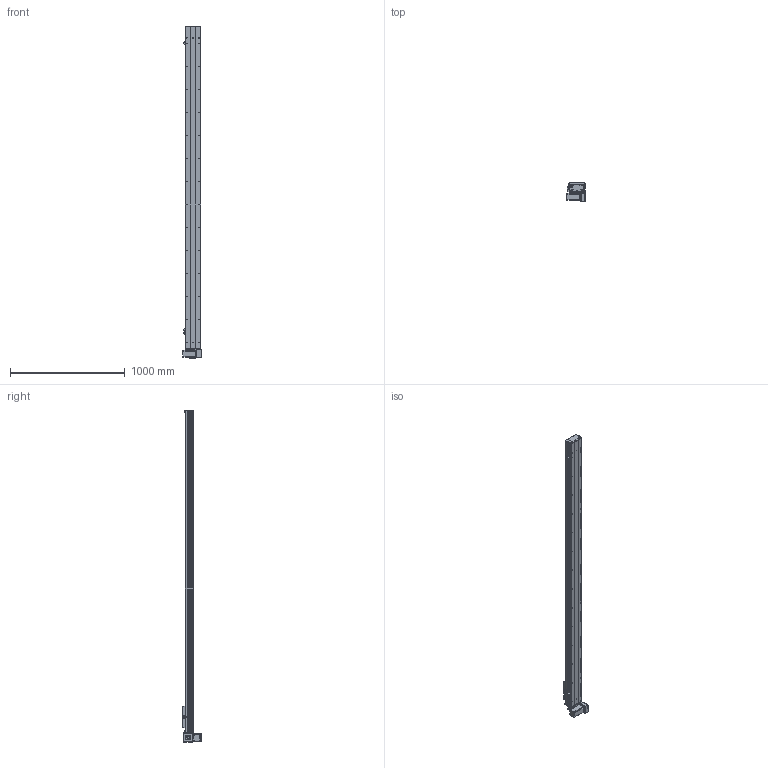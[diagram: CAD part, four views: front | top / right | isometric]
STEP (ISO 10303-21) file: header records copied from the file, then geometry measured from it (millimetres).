
FILE_DESCRIPTION (( 'STEP AP203' ), '1' );
FILE_NAME ('Y135CB-D90-S2500-BM-P400W.STEP', '2020-02-19T02:20:36', ( '微软用户' ), ( '微软中国' ), 'SwSTEP 2.0', 'SolidWorks 2017', '' );
FILE_SCHEMA (( 'CONFIG_CONTROL_DESIGN' ));
Length unit declared in the file: millimetre
Products named in the file (18): C-詩湍揤踡え-陔; Y10B--々湍喘謫眊--666; Y135CB-耜裔; 135CB--詩湍-CE; 00B-俋欶BM--; 135CB---遴掛极.-; Y100-135俋离換覜ん--; Y10B-耜蚾蟀諉啣----; 35CB---喘謫眊楊擘啣; Y135C-陔俋离換覜結え-; Y135CB-D90-S2500-BM-P400W; 0B-埴倛裔啣; 5C--俋欶; 0B-源倛裔啣; 0B-萇儂楊擘啣; san松下电机400不带刹车----; 5CB --掛极耜裔啣-; C-雄赽釱--
Assembly tree (21 placements, depth 2):
  Y135CB-D90-S2500-BM-P400W
    Y135CB-耜裔
    135CB---遴掛极.-
    35CB---喘謫眊楊擘啣
    0B-埴倛裔啣
    0B-源倛裔啣
    0B-萇儂楊擘啣
    san松下电机400不带刹车----
    5CB --掛极耜裔啣-  x2
    C-詩湍揤踡え-陔  x2
    135CB--詩湍-CE
    Y100-135俋离換覜ん--  x3
    Y135C-陔俋离換覜結え-
    5C--俋欶
    C-雄赽釱--
    Y10B--々湍喘謫眊--666
    00B-俋欶BM--
    Y10B-耜蚾蟀諉啣----
Bounding box: 157 x 163.3 x 2888 mm (x, y, z)
Volume: 8281705.7 mm3; surface area: 3280055.2 mm2
Topology: 21 solids, 21 shells, 977 faces, 2671 edges, 1770 vertices
Faces by surface type: cylinder 505, plane 456, cone 16
Entity records: 30965 total; most frequent: CARTESIAN_POINT 5164, DIRECTION 5147, ORIENTED_EDGE 4818, EDGE_CURVE 2409, AXIS2_PLACEMENT_3D 1889, VERTEX_POINT 1598, VECTOR 1369, LINE 1369
